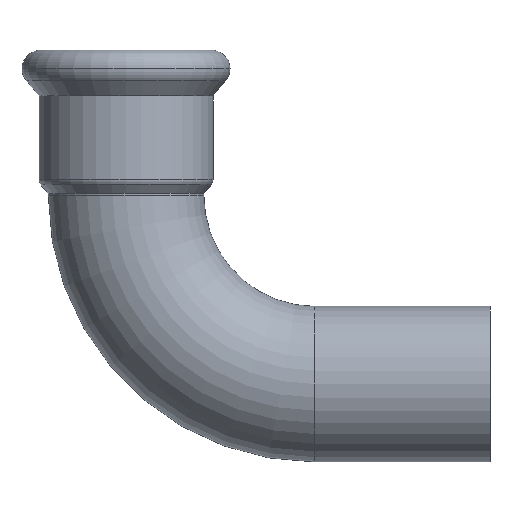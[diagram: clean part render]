
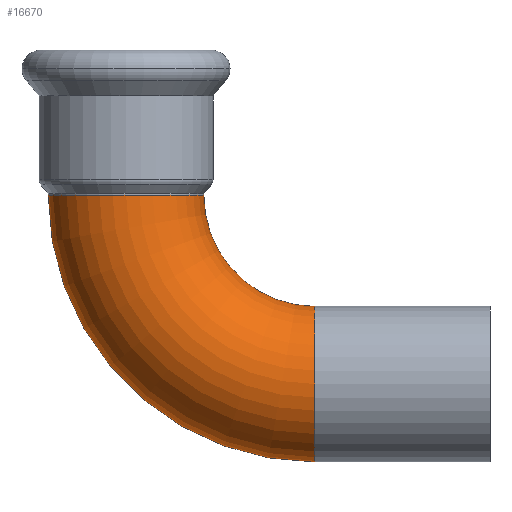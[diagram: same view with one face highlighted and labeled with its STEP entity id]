
A CAD part, top view. The second image highlights one B-rep face of the part: STEP entity #16670.
In plain terms, the highlighted toroidal (fillet/blend) face has major radius 34 mm and minor radius 14 mm.
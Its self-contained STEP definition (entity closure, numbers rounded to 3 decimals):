
#14170=CARTESIAN_POINT('',(-390.306,41.573,
0.));
#14180=VERTEX_POINT('',#14170);
#14320=CARTESIAN_POINT('',(-418.306,41.573,0.));
#14330=VERTEX_POINT('',#14320);
#14410=CARTESIAN_POINT('',(-370.306,41.573,0.));
#14420=DIRECTION('',(0.,0.,1.));
#14430=DIRECTION('',(-1.,0.,0.));
#14440=AXIS2_PLACEMENT_3D('',#14410,#14420,#14430);
#14450=TOROIDAL_SURFACE('',#14440,34.,14.);
#14460=CARTESIAN_POINT('',(-370.306,7.573,0.));
#14470=DIRECTION('',(1.,0.,0.));
#14480=DIRECTION('',(0.,-1.,0.));
#14490=AXIS2_PLACEMENT_3D('',#14460,#14470,#14480);
#14500=CIRCLE('',#14490,14.);
#14530=CARTESIAN_POINT('',(-370.306,21.573,
0.));
#14540=VERTEX_POINT('',#14530);
#14570=CARTESIAN_POINT('',(-370.306,41.573,
0.));
#14580=DIRECTION('',(0.,0.,1.));
#14590=DIRECTION('',(-1.,0.,0.));
#14600=AXIS2_PLACEMENT_3D('',#14570,#14580,#14590);
#14610=CIRCLE('',#14600,20.);
#14620=EDGE_CURVE('',#14180,#14540,#14610,.T.);
#14660=CARTESIAN_POINT('',(-370.306,41.573,
0.));
#14670=DIRECTION('',(0.,0.,1.));
#14680=DIRECTION('',(-1.,0.,0.));
#14690=AXIS2_PLACEMENT_3D('',#14660,#14670,#14680);
#14700=CIRCLE('',#14690,48.);
#14710=CARTESIAN_POINT('',(-370.306,-6.427,
0.));
#14720=VERTEX_POINT('',#14710);
#14730=EDGE_CURVE('',#14330,#14720,#14700,.T.);
#16050=CARTESIAN_POINT('',(-404.306,41.573,0.));
#16060=DIRECTION('',(0.,-1.,0.));
#16070=DIRECTION('',(-1.,0.,0.));
#16080=AXIS2_PLACEMENT_3D('',#16050,#16060,#16070);
#16090=CIRCLE('',#16080,14.);
#16100=EDGE_CURVE('',#14180,#14330,#16090,.T.);
#16400=EDGE_CURVE('',#14540,#14720,#14500,.T.);
#16610=ORIENTED_EDGE('',*,*,#16100,.T.);
#16620=ORIENTED_EDGE('',*,*,#14620,.F.);
#16630=ORIENTED_EDGE('',*,*,#16400,.F.);
#16640=ORIENTED_EDGE('',*,*,#14730,.T.);
#16650=EDGE_LOOP('',(#16640,#16630,#16620,#16610));
#16660=FACE_OUTER_BOUND('',#16650,.T.);
#16670=ADVANCED_FACE('',(#16660),#14450,.T.);
